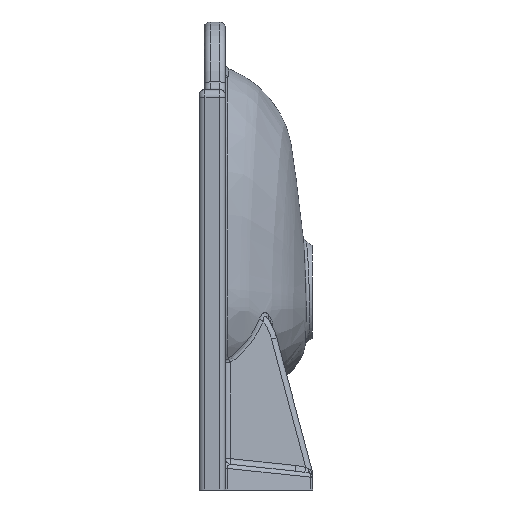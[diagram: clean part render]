
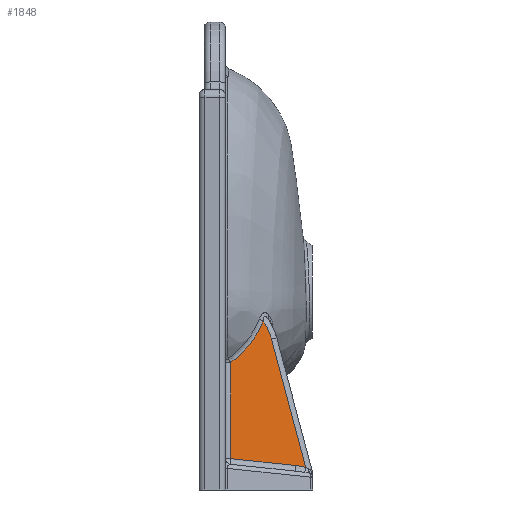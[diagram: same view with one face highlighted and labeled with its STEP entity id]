
A CAD part, left-side view. The second image highlights one B-rep face of the part: STEP entity #1848.
In plain terms, the highlighted planar face has unit normal (-0.996, -0.084, 0.038).
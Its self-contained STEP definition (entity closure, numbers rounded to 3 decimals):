
#1848 = ADVANCED_FACE ( 'NONE', ( #4511 ), #47063, .T. ) ;
#4511 = FACE_OUTER_BOUND ( 'NONE', #15491, .T. ) ;
#4913 = ORIENTED_EDGE ( 'NONE', *, *, #86113, .T. ) ;
#5705 = ORIENTED_EDGE ( 'NONE', *, *, #90542, .T. ) ;
#10516 = VECTOR ( 'NONE', #36767, 1000. ) ;
#10801 = EDGE_CURVE ( 'NONE', #85061, #74570, #14502, .T. ) ;
#14502 =( BOUNDED_CURVE ( )  B_SPLINE_CURVE ( 3, ( #53435, #38980, #82344, #88463 ),
 .UNSPECIFIED., .F., .F. ) 
 B_SPLINE_CURVE_WITH_KNOTS ( ( 4, 4 ),
 ( 0., 0.347 ),
 .UNSPECIFIED. ) 
 CURVE ( )  GEOMETRIC_REPRESENTATION_ITEM ( )  RATIONAL_B_SPLINE_CURVE ( ( 1., 0.99, 0.99, 1. ) ) 
 REPRESENTATION_ITEM ( '' )  );
#15491 = EDGE_LOOP ( 'NONE', ( #69972, #39490, #5705, #4913, #81369, #61717 ) ) ;
#19272 = B_SPLINE_CURVE_WITH_KNOTS ( 'NONE', 3,
 ( #34518, #62096, #48521, #42441, #69529, #19972, #55081, #49456, #91044, #48073, #84013, #67835, #20913, #77437 ),
 .UNSPECIFIED., .F., .F.,
 ( 4, 2, 2, 2, 2, 2, 4 ),
 ( 0., 0.016, 0.032, 0.036, 0.04, 0.048, 0.064 ),
 .UNSPECIFIED. ) ;
#19376 = CARTESIAN_POINT ( 'NONE',  ( -198.67, -75.857, -17.403 ) ) ;
#19700 = AXIS2_PLACEMENT_3D ( 'NONE', #47976, #69440, #55447 ) ;
#19972 = CARTESIAN_POINT ( 'NONE',  ( -201.152, -59.512, -46.105 ) ) ;
#20818 = EDGE_CURVE ( 'NONE', #32281, #33572, #88640, .T. ) ;
#20913 = CARTESIAN_POINT ( 'NONE',  ( -203.341, -41.672, -63.862 ) ) ;
#21050 = CARTESIAN_POINT ( 'NONE',  ( -201.652, -118.479, -189.351 ) ) ;
#21518 = CARTESIAN_POINT ( 'NONE',  ( -201.997, -114.205, -188.902 ) ) ;
#22186 = CARTESIAN_POINT ( 'NONE',  ( -208.182, -37.411, -180.831 ) ) ;
#27944 = VERTEX_POINT ( 'NONE', #43049 ) ;
#30869 = VECTOR ( 'NONE', #70481, 1000. ) ;
#32281 = VERTEX_POINT ( 'NONE', #61957 ) ;
#33572 = VERTEX_POINT ( 'NONE', #22186 ) ;
#34518 = CARTESIAN_POINT ( 'NONE',  ( -198.67, -75.857, -17.403 ) ) ;
#35121 =( BOUNDED_CURVE ( )  B_SPLINE_CURVE ( 3, ( #21518, #21050, #49596, #35583 ),
 .UNSPECIFIED., .F., .F. ) 
 B_SPLINE_CURVE_WITH_KNOTS ( ( 4, 4 ),
 ( 1.621, 1.978 ),
 .UNSPECIFIED. ) 
 CURVE ( )  GEOMETRIC_REPRESENTATION_ITEM ( )  RATIONAL_B_SPLINE_CURVE ( ( 1., 0.989, 0.989, 1. ) ) 
 REPRESENTATION_ITEM ( '' )  );
#35583 = CARTESIAN_POINT ( 'NONE',  ( -201.036, -126.51, -190.988 ) ) ;
#36767 = DIRECTION ( 'NONE',  ( 0.08, -0.991, -0.104 ) ) ;
#38980 = CARTESIAN_POINT ( 'NONE',  ( -198.527, -83.843, -31.302 ) ) ;
#39490 = ORIENTED_EDGE ( 'NONE', *, *, #20818, .T. ) ;
#41999 = LINE ( 'NONE', #76540, #30869 ) ;
#42441 = CARTESIAN_POINT ( 'NONE',  ( -200.182, -66.624, -36.486 ) ) ;
#43049 = CARTESIAN_POINT ( 'NONE',  ( -201.036, -126.51, -190.988 ) ) ;
#43396 = CARTESIAN_POINT ( 'NONE',  ( -201.997, -114.205, -188.902 ) ) ;
#47063 = PLANE ( 'NONE',  #19700 ) ;
#47976 = CARTESIAN_POINT ( 'NONE',  ( -205.004, -18.852, -56.892 ) ) ;
#48073 = CARTESIAN_POINT ( 'NONE',  ( -201.942, -53.349, -53.114 ) ) ;
#48521 = CARTESIAN_POINT ( 'NONE',  ( -199.39, -71.822, -27.283 ) ) ;
#49456 = CARTESIAN_POINT ( 'NONE',  ( -201.488, -56.928, -49.175 ) ) ;
#49596 = CARTESIAN_POINT ( 'NONE',  ( -201.329, -122.624, -190.054 ) ) ;
#52161 = CARTESIAN_POINT ( 'NONE',  ( -210.661, -6.621, -177.594 ) ) ;
#52892 = CARTESIAN_POINT ( 'NONE',  ( -198.649, -85.919, -39.072 ) ) ;
#53136 = EDGE_CURVE ( 'NONE', #74570, #32281, #19272, .T. ) ;
#53435 = CARTESIAN_POINT ( 'NONE',  ( -198.649, -85.919, -39.072 ) ) ;
#55081 = CARTESIAN_POINT ( 'NONE',  ( -201.264, -58.661, -47.141 ) ) ;
#55447 = DIRECTION ( 'NONE',  ( 0.038, 0.001, 0.999 ) ) ;
#61238 = VECTOR ( 'NONE', #82075, 1000. ) ;
#61717 = ORIENTED_EDGE ( 'NONE', *, *, #10801, .T. ) ;
#61957 = CARTESIAN_POINT ( 'NONE',  ( -203.822, -37.411, -67.026 ) ) ;
#62096 = CARTESIAN_POINT ( 'NONE',  ( -199.017, -74.05, -22.466 ) ) ;
#63660 = EDGE_CURVE ( 'NONE', #27944, #85061, #41999, .T. ) ;
#65935 = VERTEX_POINT ( 'NONE', #43396 ) ;
#67835 = CARTESIAN_POINT ( 'NONE',  ( -202.867, -45.737, -60.476 ) ) ;
#69440 = DIRECTION ( 'NONE',  ( -0.996, -0.084, 0.038 ) ) ;
#69529 = CARTESIAN_POINT ( 'NONE',  ( -200.601, -63.653, -40.872 ) ) ;
#69972 = ORIENTED_EDGE ( 'NONE', *, *, #53136, .T. ) ;
#70481 = DIRECTION ( 'NONE',  ( 0.015, 0.258, 0.966 ) ) ;
#73160 = LINE ( 'NONE', #52161, #10516 ) ;
#74147 = CARTESIAN_POINT ( 'NONE',  ( -203.436, -37.411, -56.952 ) ) ;
#74570 = VERTEX_POINT ( 'NONE', #19376 ) ;
#76540 = CARTESIAN_POINT ( 'NONE',  ( -201.172, -128.827, -199.66 ) ) ;
#77437 = CARTESIAN_POINT ( 'NONE',  ( -203.822, -37.411, -67.026 ) ) ;
#81369 = ORIENTED_EDGE ( 'NONE', *, *, #63660, .T. ) ;
#82075 = DIRECTION ( 'NONE',  ( -0.038, 0., -0.999 ) ) ;
#82344 = CARTESIAN_POINT ( 'NONE',  ( -198.534, -80.455, -24.006 ) ) ;
#84013 = CARTESIAN_POINT ( 'NONE',  ( -202.171, -51.489, -55.004 ) ) ;
#85061 = VERTEX_POINT ( 'NONE', #52892 ) ;
#86113 = EDGE_CURVE ( 'NONE', #65935, #27944, #35121, .T. ) ;
#88463 = CARTESIAN_POINT ( 'NONE',  ( -198.67, -75.857, -17.403 ) ) ;
#88640 = LINE ( 'NONE', #74147, #61238 ) ;
#90542 = EDGE_CURVE ( 'NONE', #33572, #65935, #73160, .T. ) ;
#91044 = CARTESIAN_POINT ( 'NONE',  ( -201.601, -56.045, -50.173 ) ) ;
